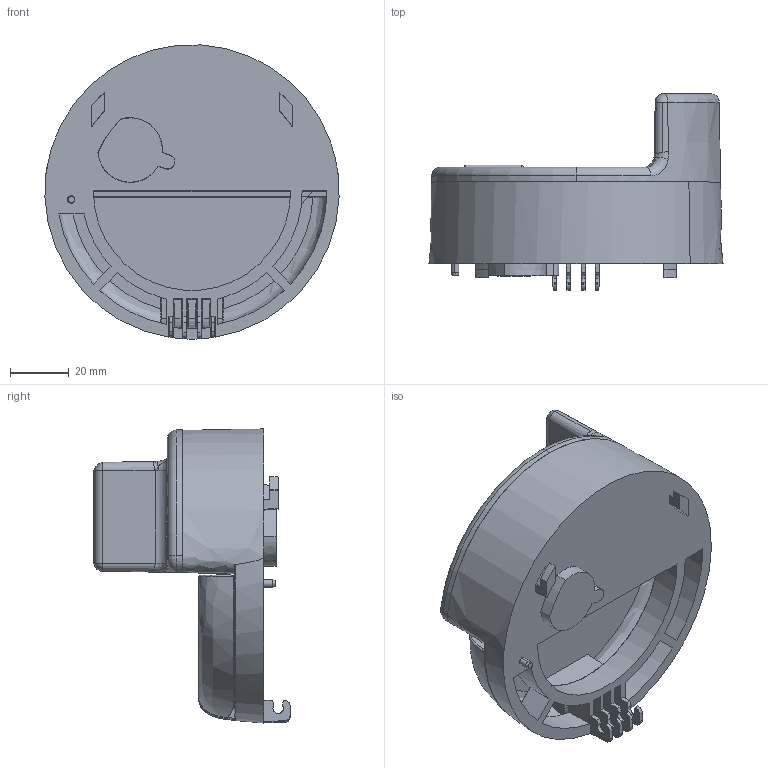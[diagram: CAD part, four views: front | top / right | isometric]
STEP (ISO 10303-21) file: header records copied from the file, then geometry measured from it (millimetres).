
FILE_DESCRIPTION (( 'STEP AP203' ), '1' );
FILE_NAME ('IWM-TX4 - modulo radio Woltmann.STEP', '2018-06-22T15:02:05', ( '' ), ( '' ), 'SwSTEP 2.0', 'SolidWorks 2018', '' );
FILE_SCHEMA (( 'CONFIG_CONTROL_DESIGN' ));
Length unit declared in the file: millimetre
Products named in the file (1): IWM-TX4 - modulo radio Woltmann
Bounding box: 99.93 x 66.7 x 99.9 mm (x, y, z)
Surface area: 40407.3 mm2 (no closed solid volume)
Topology: 0 solids, 4 shells, 226 faces, 794 edges, 539 vertices
Faces by surface type: plane 103, cone 36, cylinder 33, bspline 28, torus 26
Entity records: 11429 total; most frequent: CARTESIAN_POINT 5211, ORIENTED_EDGE 1395, DIRECTION 1084, EDGE_CURVE 792, VERTEX_POINT 539, AXIS2_PLACEMENT_3D 378, LINE 328, VECTOR 328
